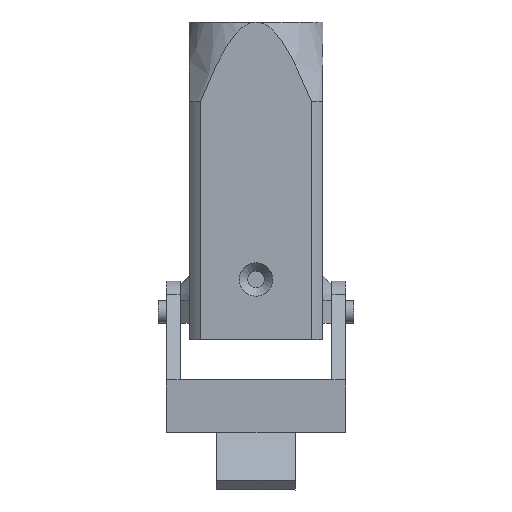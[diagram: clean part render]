
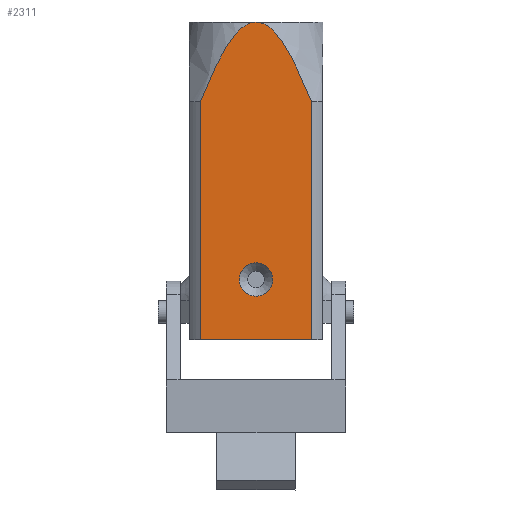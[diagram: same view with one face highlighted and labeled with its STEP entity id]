
A CAD part, left-side view. The second image highlights one B-rep face of the part: STEP entity #2311.
In plain terms, the highlighted planar face has unit normal (-1, 0, 0).
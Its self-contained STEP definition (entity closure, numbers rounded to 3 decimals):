
#56=B_SPLINE_CURVE_WITH_KNOTS('',3,(#5820,#5821,#5822,#5823,#5824,#5825,
#5826,#5827,#5828,#5829),.UNSPECIFIED.,.F.,.F.,(4,2,2,2,4),(0.,0.5,0.75,
0.875,1.),.UNSPECIFIED.);
#83=B_SPLINE_CURVE_WITH_KNOTS('',3,(#6953,#6954,#6955,#6956,#6957,#6958,
#6959,#6960,#6961,#6962),.UNSPECIFIED.,.F.,.F.,(4,2,2,2,4),(0.,0.125,0.25,
0.5,1.),.UNSPECIFIED.);
#1451=PLANE('',#4774);
#1787=LINE('',#6947,#2130);
#1788=LINE('',#6951,#2131);
#1789=LINE('',#6963,#2132);
#2130=VECTOR('',#5555,1.);
#2131=VECTOR('',#5560,1.);
#2132=VECTOR('',#5561,1.);
#2311=ADVANCED_FACE('',(#2405,#2406),#1451,.T.);
#2405=FACE_BOUND('',#2613,.T.);
#2406=FACE_BOUND('',#2614,.T.);
#2613=EDGE_LOOP('',(#3437));
#2614=EDGE_LOOP('',(#3438,#3439,#3440,#3441,#3442));
#3437=ORIENTED_EDGE('',*,*,#4261,.F.);
#3438=ORIENTED_EDGE('',*,*,#4266,.T.);
#3439=ORIENTED_EDGE('',*,*,#3913,.T.);
#3440=ORIENTED_EDGE('',*,*,#4267,.T.);
#3441=ORIENTED_EDGE('',*,*,#4264,.T.);
#3442=ORIENTED_EDGE('',*,*,#4268,.T.);
#3588=VERTEX_POINT('',#5819);
#3589=VERTEX_POINT('',#5830);
#3824=VERTEX_POINT('',#6940);
#3827=VERTEX_POINT('',#6946);
#3828=VERTEX_POINT('',#6948);
#3829=VERTEX_POINT('',#6952);
#3913=EDGE_CURVE('',#3589,#3588,#56,.T.);
#4261=EDGE_CURVE('',#3824,#3824,#4352,.T.);
#4264=EDGE_CURVE('',#3828,#3827,#1787,.T.);
#4266=EDGE_CURVE('',#3829,#3589,#1788,.T.);
#4267=EDGE_CURVE('',#3588,#3828,#83,.T.);
#4268=EDGE_CURVE('',#3827,#3829,#1789,.T.);
#4352=CIRCLE('',#4769,2.992);
#4769=AXIS2_PLACEMENT_3D('',#6939,#5548,#5549);
#4774=AXIS2_PLACEMENT_3D('',#6964,#5562,#5563);
#5548=DIRECTION('',(-1.,0.,0.));
#5549=DIRECTION('',(0.,-1.,0.));
#5555=DIRECTION('',(0.,0.,-1.));
#5560=DIRECTION('',(0.,0.,1.));
#5561=DIRECTION('',(0.,-1.,0.));
#5562=DIRECTION('',(-1.,0.,0.));
#5563=DIRECTION('',(0.,1.,0.));
#5819=CARTESIAN_POINT('',(-12.,0.,46.2));
#5820=CARTESIAN_POINT('',(-12.,-9.968,31.9));
#5821=CARTESIAN_POINT('',(-12.,-8.864,34.702));
#5822=CARTESIAN_POINT('',(-12.,-7.693,37.472));
#5823=CARTESIAN_POINT('',(-12.,-5.542,41.423));
#5824=CARTESIAN_POINT('',(-12.,-4.761,42.72));
#5825=CARTESIAN_POINT('',(-12.,-3.293,44.472));
#5826=CARTESIAN_POINT('',(-12.,-2.757,45.02));
#5827=CARTESIAN_POINT('',(-12.,-1.501,45.891));
#5828=CARTESIAN_POINT('',(-12.,-0.767,46.2));
#5829=CARTESIAN_POINT('',(-12.,0.,46.2));
#5830=CARTESIAN_POINT('',(-12.,-9.968,31.9));
#6939=CARTESIAN_POINT('',(-12.,0.,0.));
#6940=CARTESIAN_POINT('',(-12.,-2.992,0.));
#6946=CARTESIAN_POINT('',(-12.,9.968,-10.8));
#6947=CARTESIAN_POINT('',(-12.,9.968,31.28));
#6948=CARTESIAN_POINT('',(-12.,9.968,31.9));
#6951=CARTESIAN_POINT('',(-12.,-9.968,-10.8));
#6952=CARTESIAN_POINT('',(-12.,-9.968,-10.8));
#6953=CARTESIAN_POINT('',(-12.,0.,46.2));
#6954=CARTESIAN_POINT('',(-12.,0.766,46.2));
#6955=CARTESIAN_POINT('',(-12.,1.495,45.895));
#6956=CARTESIAN_POINT('',(-12.,2.752,45.025));
#6957=CARTESIAN_POINT('',(-12.,3.284,44.482));
#6958=CARTESIAN_POINT('',(-12.,4.748,42.738));
#6959=CARTESIAN_POINT('',(-12.,5.531,41.441));
#6960=CARTESIAN_POINT('',(-12.,7.686,37.487));
#6961=CARTESIAN_POINT('',(-12.,8.863,34.705));
#6962=CARTESIAN_POINT('',(-12.,9.968,31.9));
#6963=CARTESIAN_POINT('',(-12.,9.968,-10.8));
#6964=CARTESIAN_POINT('',(-12.,-12.,46.2));
